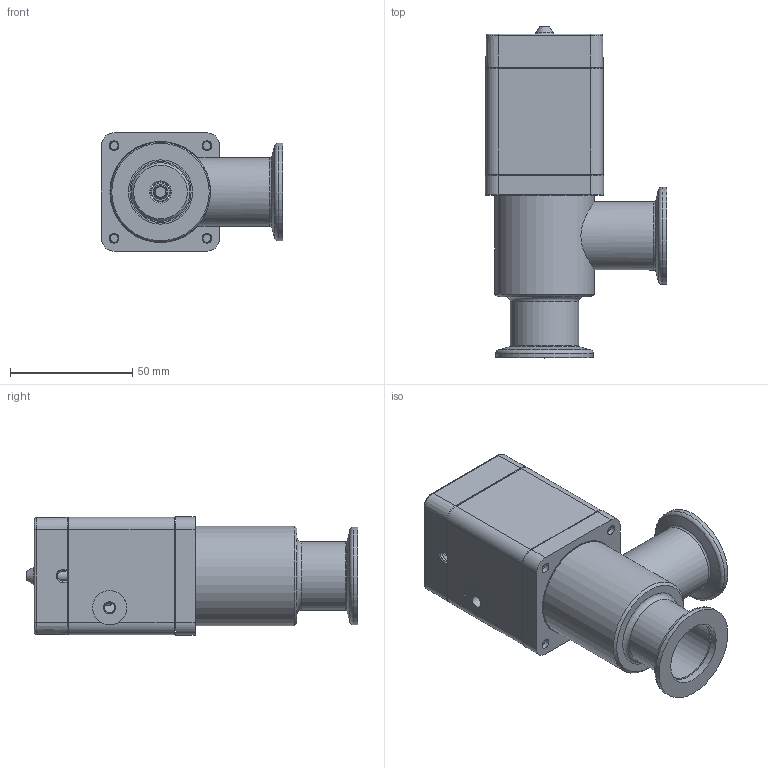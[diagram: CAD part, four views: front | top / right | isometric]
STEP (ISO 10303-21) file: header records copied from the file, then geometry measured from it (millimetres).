
FILE_DESCRIPTION(/* description */ (''),/* implementation_level */ '2;1');
FILE_NAME(/* name */ '1163346050_203.stp',/* time_stamp */ '2013-07-17T10:27:09+02:00',/* author */ (''),/* organization */ (''),/* preprocessor_version */ 'ST-DEVELOPER v11',/* originating_system */ 'SIEMENS PLM Software NX 7.5',/* authorisation */ '');
FILE_SCHEMA (('AP203_CONFIGURATION_CONTROLLED_3D_DESIGN_OF_MECHANICAL_PARTS_AND_ASSEMBLIES_MIM_LF'));
Length unit declared in the file: millimetre
Products named in the file (11): 245690.2; 245689.5; 245688.7; 233359; 236204_1.1; 239359.4; 245188.1; 243878.2; 245687.12; 239983.3; 701742
Assembly tree (14 placements, depth 3):
  701742
    243878.2
    245188.1  x4
    239359.4
    239983.3
      236204_1.1  x2
      233359
    245687.12
      245688.7
      245689.5
      245690.2
Bounding box: 74.2 x 135.91 x 48.4 mm (x, y, z)
Volume: 109751.2 mm3; surface area: 72105.6 mm2
Topology: 20 solids, 20 shells, 523 faces, 1260 edges, 817 vertices
Faces by surface type: plane 287, cylinder 130, cone 71, bspline 19, torus 16
Full cylindrical faces by diameter (mm): 2.5 x3, 2.95 x1, 3 x7, 3.26 x4, 3.3 x4, 4 x12, 4.2 x1, 4.4 x1, 4.5 x4, 4.7 x3, 5 x1, 5.1 x1, 5.6 x2, 6 x3, 7 x4, 7.4 x1, 7.975 x3, 8 x5, 8.012 x2, 9.25 x1, 11.5 x1, 14 x1, 24 x1, 25 x3, 26.3 x2, 28 x2, 36.5 x1, 39.896 x1, 39.912 x1, 40.08 x1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
Entity records: 15004 total; most frequent: CARTESIAN_POINT 3065, DIRECTION 2133, ORIENTED_EDGE 1912, EDGE_CURVE 956, AXIS2_PLACEMENT_3D 790, VERTEX_POINT 699, EDGE_LOOP 658, LINE 553
